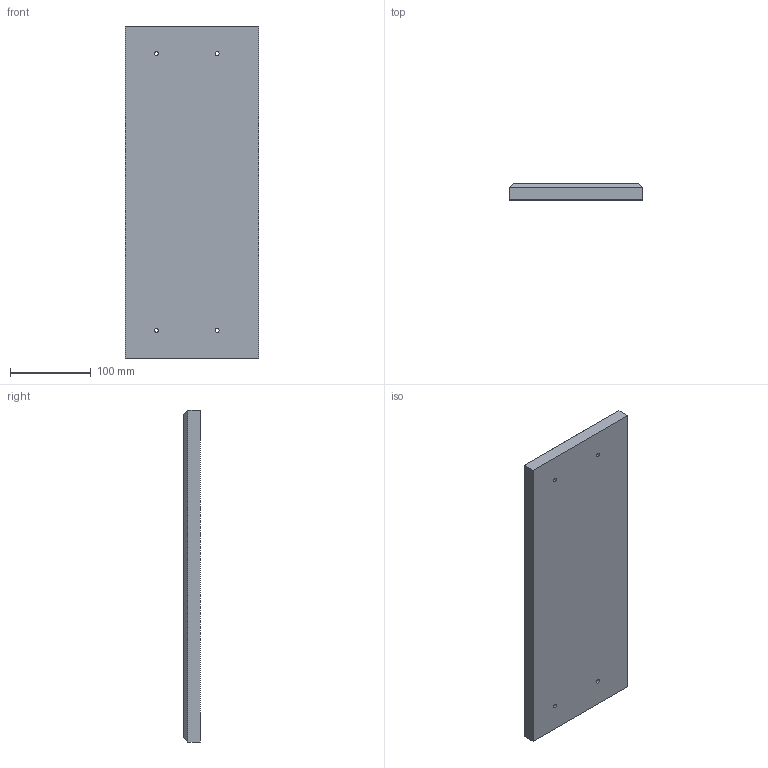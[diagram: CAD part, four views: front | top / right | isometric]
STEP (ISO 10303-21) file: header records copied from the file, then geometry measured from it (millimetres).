
FILE_DESCRIPTION(/* description */ ('BASE PLATE'),/* implementation_level */ '2;1');
FILE_NAME(/* name */ 'C:\Users\Apardo\Documents\Proyectos\Dietrich\Proyecto 1\PLATE ROLLING MACHINE\STEP\1.1 base plate.stp',/* time_stamp */ '2020-11-03T20:44:32-04:00',/* author */ ('Apardo'),/* organization */ ('5'),/* preprocessor_version */ 'ST-DEVELOPER v18',/* originating_system */ 'Autodesk Inventor 2020',/* authorisation */ '');
FILE_SCHEMA (('AUTOMOTIVE_DESIGN { 1 0 10303 214 3 1 1 }'));
Length unit declared in the file: millimetre
Products named in the file (1): base plate
Bounding box: 165 x 20 x 410 mm (x, y, z)
Volume: 1337272.6 mm3; surface area: 155974.2 mm2
Topology: 1 solids, 1 shells, 14 faces, 36 edges, 24 vertices
Faces by surface type: plane 10, cylinder 4
Full cylindrical faces by diameter (mm): 4.917 x4
Entity records: 489 total; most frequent: DIRECTION 78, CARTESIAN_POINT 75, ORIENTED_EDGE 72, EDGE_CURVE 36, AXIS2_PLACEMENT_3D 27, LINE 24, VECTOR 24, VERTEX_POINT 24
